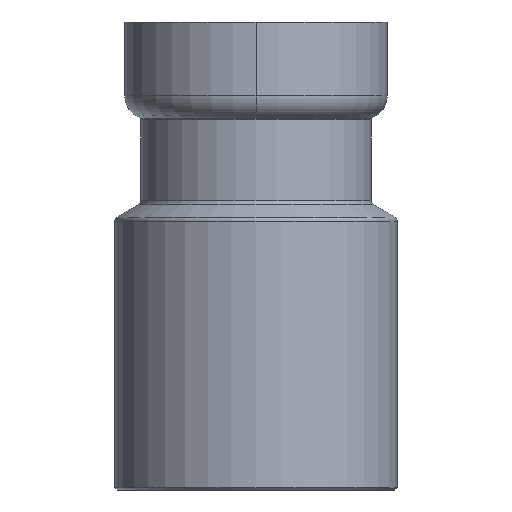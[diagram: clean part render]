
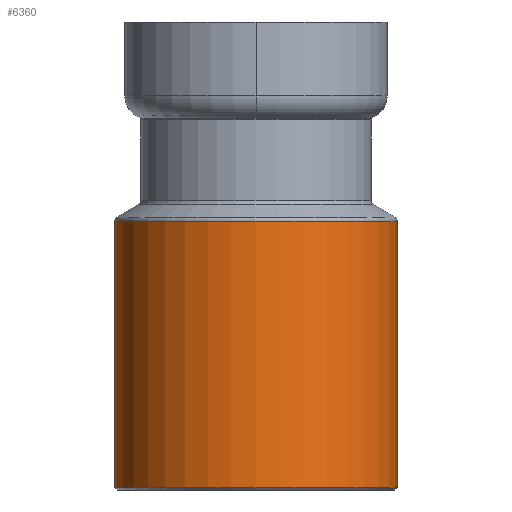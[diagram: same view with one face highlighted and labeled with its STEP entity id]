
A CAD part, front view. The second image highlights one B-rep face of the part: STEP entity #6360.
In plain terms, the highlighted cylindrical face has radius 30.15 mm (diameter 60.3 mm), a partial arc.
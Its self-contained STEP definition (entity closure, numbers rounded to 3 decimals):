
#60=CARTESIAN_POINT('',(91.767,52.567,-30.15));
#70=DIRECTION('',(1.,0.,-0.));
#80=VECTOR('',#70,1.);
#90=LINE('',#60,#80);
#100=CARTESIAN_POINT('',(65.412,52.567,-30.15));
#110=VERTEX_POINT('',#100);
#120=CARTESIAN_POINT('',(122.301,52.567,-30.15));
#130=VERTEX_POINT('',#120);
#140=EDGE_CURVE('',#110,#130,#90,.T.);
#160=CARTESIAN_POINT('',(65.412,52.567,0.
));
#170=DIRECTION('',(-1.,-0.,0.));
#180=DIRECTION('',(-0.,0.,-1.));
#190=AXIS2_PLACEMENT_3D('',#160,#170,#180);
#200=CIRCLE('',#190,30.15);
#210=CARTESIAN_POINT('',(65.412,52.567,30.15));
#220=VERTEX_POINT('',#210);
#250=CARTESIAN_POINT('',(91.767,52.567,30.15));
#260=DIRECTION('',(1.,0.,-0.));
#270=VECTOR('',#260,1.);
#280=LINE('',#250,#270);
#290=CARTESIAN_POINT('',(122.301,52.567,30.15));
#300=VERTEX_POINT('',#290);
#310=EDGE_CURVE('',#220,#300,#280,.T.);
#330=CARTESIAN_POINT('',(122.301,52.567,0.
));
#340=DIRECTION('',(1.,0.,-0.));
#350=DIRECTION('',(-0.,0.,-1.));
#360=AXIS2_PLACEMENT_3D('',#330,#340,#350);
#370=CIRCLE('',#360,30.15);
#710=EDGE_CURVE('',#220,#110,#200,.T.);
#6240=CARTESIAN_POINT('',(91.767,52.567,
0.));
#6250=DIRECTION('',(1.,0.,-0.));
#6260=DIRECTION('',(-0.,0.,-1.));
#6270=AXIS2_PLACEMENT_3D('',#6240,#6250,#6260);
#6280=CYLINDRICAL_SURFACE('',#6270,30.15);
#6290=ORIENTED_EDGE('',*,*,#140,.F.);
#6300=EDGE_CURVE('',#130,#300,#370,.T.);
#6310=ORIENTED_EDGE('',*,*,#6300,.F.);
#6320=ORIENTED_EDGE('',*,*,#310,.T.);
#6330=ORIENTED_EDGE('',*,*,#710,.F.);
#6340=EDGE_LOOP('',(#6330,#6320,#6310,#6290));
#6350=FACE_OUTER_BOUND('',#6340,.T.);
#6360=ADVANCED_FACE('',(#6350),#6280,.T.);
